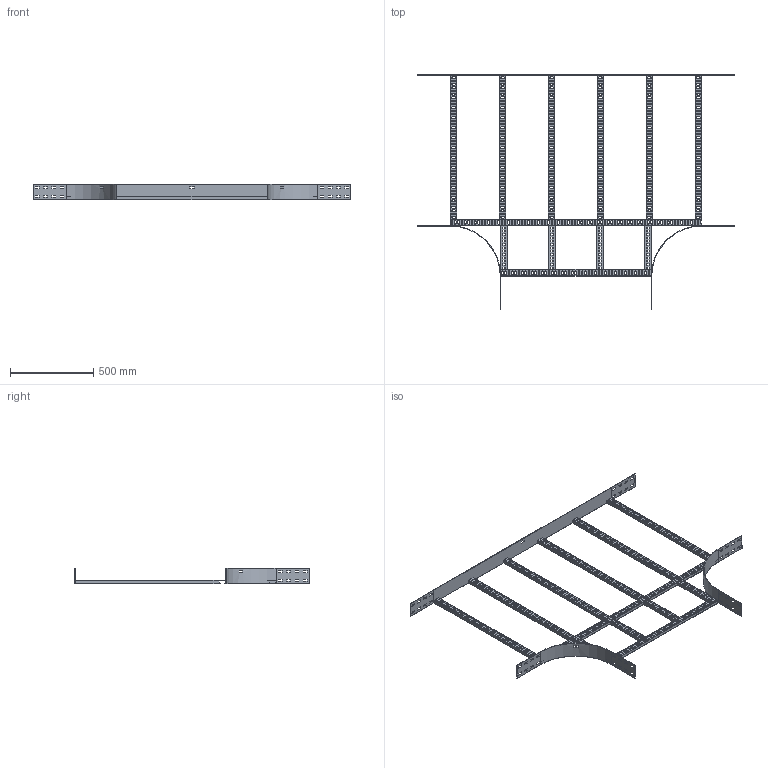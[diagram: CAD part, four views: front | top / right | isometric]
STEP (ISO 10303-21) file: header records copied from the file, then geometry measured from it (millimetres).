
FILE_DESCRIPTION(/* description */ ('','CAx-IF Rec.Pracs.---Representation and Presentation of Product Manufacturing Information (PMI)---4.0---2014-10-13'),/* implementation_level */ '2;1');
FILE_NAME(/* name */ 'Eurostrut_EET100-900-300_T-Piece for Cable Ladder ECL.step',/* time_stamp */ '2026-09-03T15:52:47+02:00',/* author */ (''),/* organization */ (''),/* preprocessor_version */ 'ST-DEVELOPER v20.1',/* originating_system */ 'Autodesk Revit 2027 27.2.0.39',/* authorisation */ '');
FILE_SCHEMA (('AUTOMOTIVE_DESIGN { 1 0 10303 214 3 1 1 }','AP242_MANAGED_MODEL_BASED_3D_ENGINEERING_MIM_LF { 1 0 10303 442 2 1 4 }'));
Products named in the file (9): TopLevelAssembly; Sweep; Sweep_1; Eurostrut_Cable Ladder_Rung_With slots; Eurostrut_Cable Ladder_Rung_With slots_1; Eurostrut_Cable Ladder_Rung Array Straight_Slotted; Eurostrut_Cable Ladder_Rung Array Straight_Slotted_1; Sweep_2; Eurostrut_Cable Ladder_Accessory End_54-94-142
Assembly tree (13 placements, depth 2):
  TopLevelAssembly
    Sweep
    Sweep_1
    Eurostrut_Cable Ladder_Rung_With slots
    Eurostrut_Cable Ladder_Rung_With slots_1
    Eurostrut_Cable Ladder_Rung Array Straight_Slotted
    Eurostrut_Cable Ladder_Rung Array Straight_Slotted_1
    Sweep_2
    Eurostrut_Cable Ladder_Accessory End_54-94-142  x6
Bounding box: 1911 x 1411 x 94.04 mm (x, y, z)
Volume: 2055703.3 mm3; surface area: 2179507.8 mm2
Topology: 21 solids, 21 shells, 2198 faces, 6468 edges, 4312 vertices
Faces by surface type: plane 1284, bspline 862, cylinder 52
Entity records: 93422 total; most frequent: CARTESIAN_POINT 38568, ORIENTED_EDGE 11856, DIRECTION 10100, EDGE_CURVE 5928, LINE 4092, VECTOR 4092, VERTEX_POINT 3952, AXIS2_PLACEMENT_3D 3004
